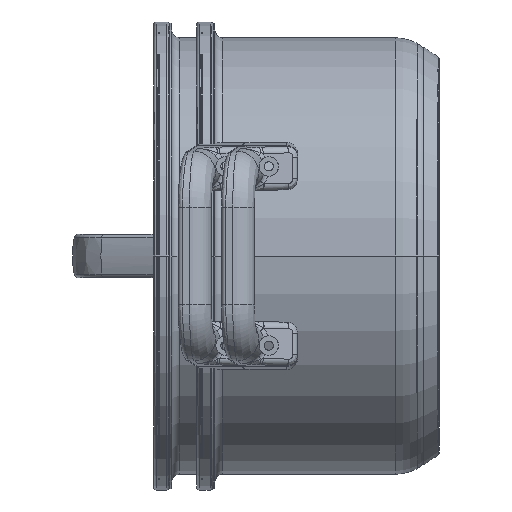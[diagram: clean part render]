
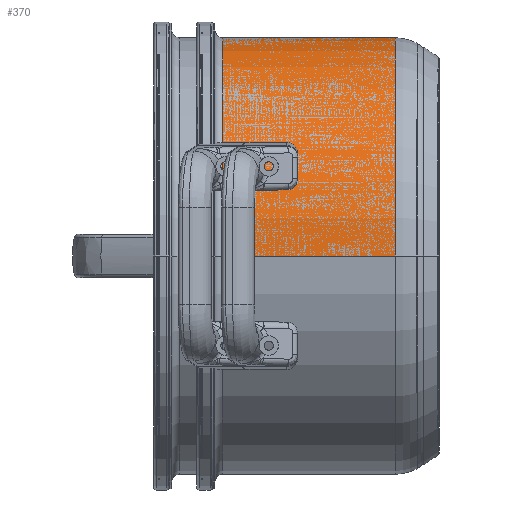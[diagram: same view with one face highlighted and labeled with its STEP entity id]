
A CAD part, left-side view. The second image highlights one B-rep face of the part: STEP entity #370.
In plain terms, the highlighted cylindrical face has radius 100.8 mm (diameter 201.6 mm), a partial arc.
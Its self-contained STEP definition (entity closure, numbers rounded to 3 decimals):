
#77=CARTESIAN_POINT('',(0.,100.,0.));
#78=DIRECTION('',(0.,-1.,0.));
#79=DIRECTION('',(1.,0.,0.));
#80=AXIS2_PLACEMENT_3D('',#77,#78,#79);
#82=CARTESIAN_POINT('',(0.,20.373,0.));
#83=DIRECTION('',(0.,-1.,0.));
#84=DIRECTION('',(1.,0.,0.));
#85=AXIS2_PLACEMENT_3D('',#82,#83,#84);
#87=DIRECTION('',(0.,1.,0.));
#88=VECTOR('',#87,79.627);
#89=CARTESIAN_POINT('',(100.8,20.373,0.));
#90=LINE('',#89,#88);
#91=DIRECTION('',(0.,1.,0.));
#92=VECTOR('',#91,79.627);
#93=CARTESIAN_POINT('',(-100.8,20.373,0.));
#94=LINE('',#93,#92);
#246=CARTESIAN_POINT('',(100.8,20.373,0.));
#247=VERTEX_POINT('',#246);
#248=CARTESIAN_POINT('',(100.8,100.,0.));
#249=VERTEX_POINT('',#248);
#256=CARTESIAN_POINT('',(-100.8,20.373,0.));
#257=VERTEX_POINT('',#256);
#258=CARTESIAN_POINT('',(-100.8,100.,0.));
#259=VERTEX_POINT('',#258);
#356=CARTESIAN_POINT('',(0.,109.5,0.));
#357=DIRECTION('',(0.,-1.,0.));
#358=DIRECTION('',(-1.,0.,0.));
#359=AXIS2_PLACEMENT_3D('',#356,#357,#358);
#360=CYLINDRICAL_SURFACE('',#359,100.8);
#362=ORIENTED_EDGE('',*,*,#361,.F.);
#364=ORIENTED_EDGE('',*,*,#363,.T.);
#366=ORIENTED_EDGE('',*,*,#365,.T.);
#367=ORIENTED_EDGE('',*,*,#349,.F.);
#368=EDGE_LOOP('',(#362,#364,#366,#367));
#369=FACE_OUTER_BOUND('',#368,.F.);
#370=ADVANCED_FACE('',(#369),#360,.T.);
#81=CIRCLE('',#80,100.8);
#86=CIRCLE('',#85,100.8);
#349=EDGE_CURVE('',#249,#259,#81,.T.);
#361=EDGE_CURVE('',#247,#249,#90,.T.);
#363=EDGE_CURVE('',#247,#257,#86,.T.);
#365=EDGE_CURVE('',#257,#259,#94,.T.);
